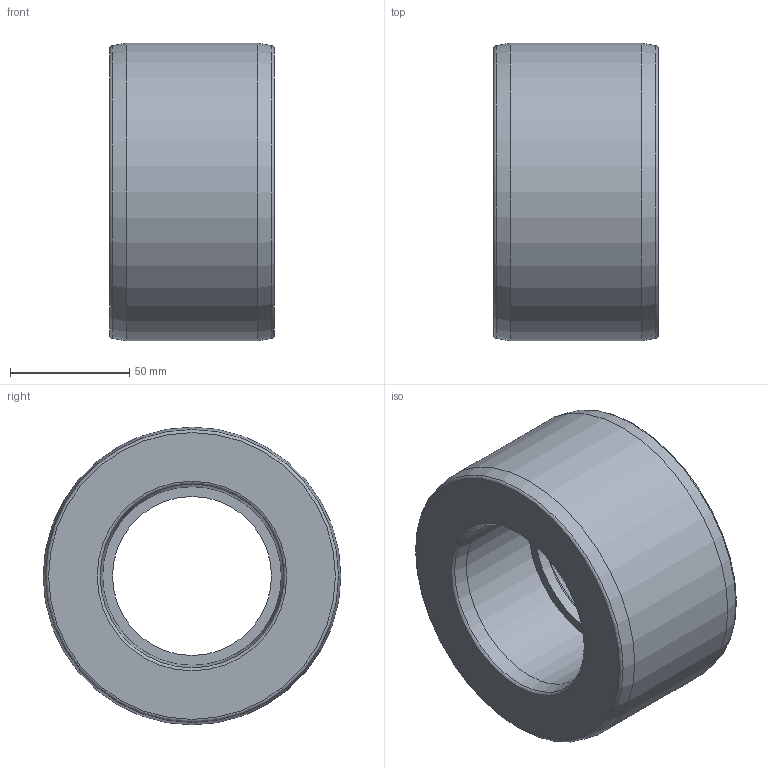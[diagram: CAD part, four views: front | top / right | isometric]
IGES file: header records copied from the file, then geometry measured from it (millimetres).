
Global section: file name: 050900125075.ipt; native system: Autodesk Inventor 2015; preprocessor: unknown; author: KIM; date: 20171207.165130; units: millimetre
Bounding box: 69 x 125 x 125 mm (x, y, z)
Volume: 532976.1 mm3; surface area: 57310 mm2
Topology: 1 solids, 1 shells, 15 faces, 43 edges, 31 vertices
Faces by surface type: revolution 9, plane 3, cone 2, cylinder 1
Full cylindrical faces by diameter (mm): 125 x1
